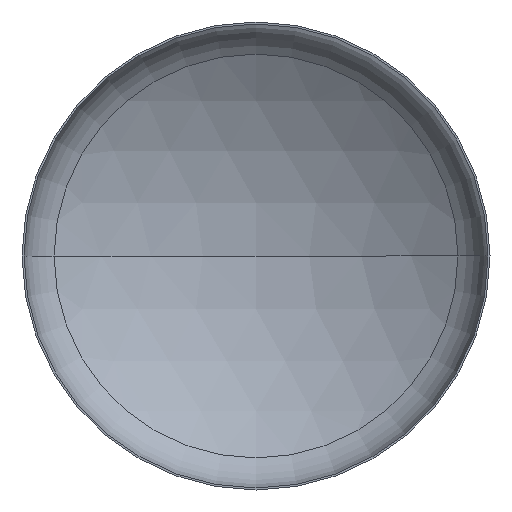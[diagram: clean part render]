
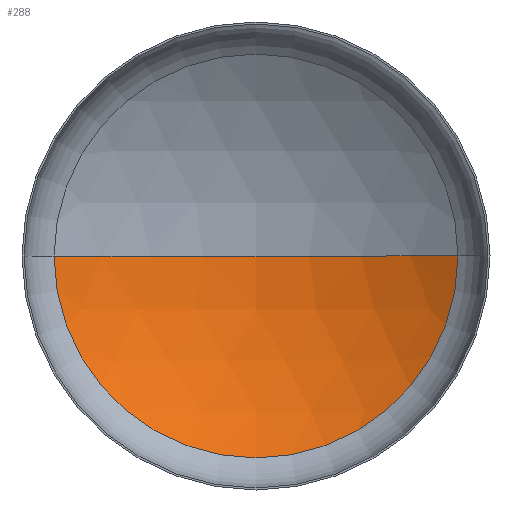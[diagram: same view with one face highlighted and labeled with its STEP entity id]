
A CAD part, front view. The second image highlights one B-rep face of the part: STEP entity #288.
In plain terms, the highlighted spherical face has radius 554 mm.
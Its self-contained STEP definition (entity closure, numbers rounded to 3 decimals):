
#11 = ORIENTED_EDGE ( 'NONE', *, *, #225, .T. ) ;
#13 = CARTESIAN_POINT ( 'NONE',  ( 0., 177., 0. ) ) ;
#25 = DIRECTION ( 'NONE',  ( 0., 0., 1. ) ) ;
#27 = AXIS2_PLACEMENT_3D ( 'NONE', #367, #359, #41 ) ;
#41 = DIRECTION ( 'NONE',  ( 1., 0., 0. ) ) ;
#59 = EDGE_CURVE ( 'NONE', #357, #366, #64, .T. ) ;
#64 = CIRCLE ( 'NONE', #293, 301.96 ) ;
#88 = DIRECTION ( 'NONE',  ( -1., 0., 0. ) ) ;
#94 = SPHERICAL_SURFACE ( 'NONE', #302, 554. ) ;
#99 = EDGE_CURVE ( 'NONE', #366, #185, #214, .T. ) ;
#170 = CARTESIAN_POINT ( 'NONE',  ( -301.96, 87.474, 0. ) ) ;
#175 = EDGE_LOOP ( 'NONE', ( #269, #11, #289 ) ) ;
#176 = CIRCLE ( 'NONE', #27, 554. ) ;
#181 = DIRECTION ( 'NONE',  ( 0., 1., 0. ) ) ;
#185 = VERTEX_POINT ( 'NONE', #13 ) ;
#187 = CARTESIAN_POINT ( 'NONE',  ( 0., -377., 0. ) ) ;
#214 = CIRCLE ( 'NONE', #261, 554. ) ;
#225 = EDGE_CURVE ( 'NONE', #357, #185, #176, .T. ) ;
#257 = DIRECTION ( 'NONE',  ( -1., 0., 0. ) ) ;
#261 = AXIS2_PLACEMENT_3D ( 'NONE', #369, #271, #268 ) ;
#262 = CARTESIAN_POINT ( 'NONE',  ( 301.96, 87.474, 0. ) ) ;
#268 = DIRECTION ( 'NONE',  ( -1., 0., 0. ) ) ;
#269 = ORIENTED_EDGE ( 'NONE', *, *, #59, .F. ) ;
#271 = DIRECTION ( 'NONE',  ( 0., 0., -1. ) ) ;
#288 = ADVANCED_FACE ( 'NONE', ( #348 ), #94, .F. ) ;
#289 = ORIENTED_EDGE ( 'NONE', *, *, #99, .F. ) ;
#293 = AXIS2_PLACEMENT_3D ( 'NONE', #313, #181, #88 ) ;
#302 = AXIS2_PLACEMENT_3D ( 'NONE', #187, #25, #257 ) ;
#313 = CARTESIAN_POINT ( 'NONE',  ( 0., 87.474, 0. ) ) ;
#348 = FACE_OUTER_BOUND ( 'NONE', #175, .T. ) ;
#357 = VERTEX_POINT ( 'NONE', #262 ) ;
#359 = DIRECTION ( 'NONE',  ( 0., 0., 1. ) ) ;
#366 = VERTEX_POINT ( 'NONE', #170 ) ;
#367 = CARTESIAN_POINT ( 'NONE',  ( 0., -377., 0. ) ) ;
#369 = CARTESIAN_POINT ( 'NONE',  ( 0., -377., 0. ) ) ;
